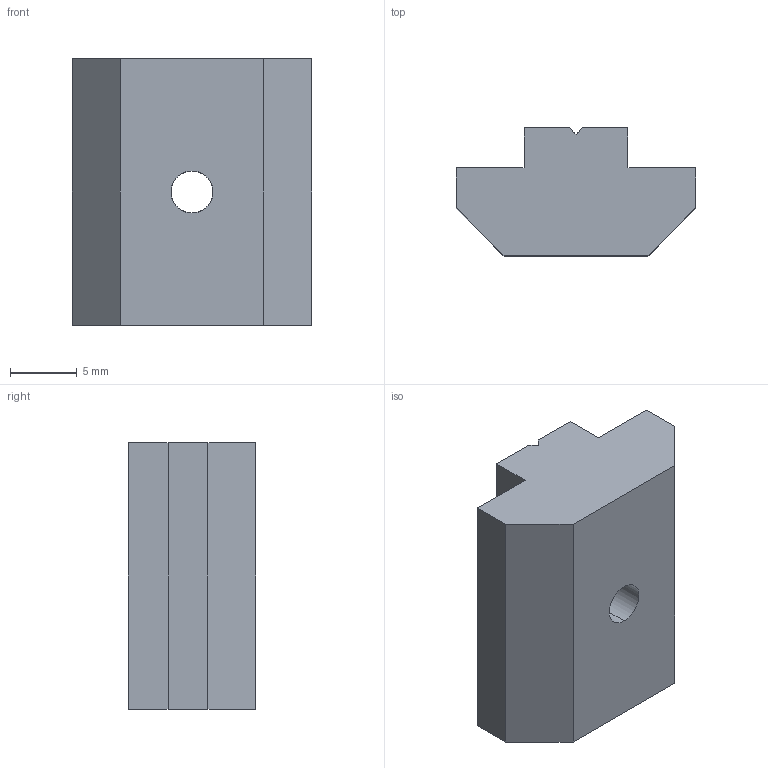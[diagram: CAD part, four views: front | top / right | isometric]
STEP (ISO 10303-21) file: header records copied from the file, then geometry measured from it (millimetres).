
FILE_DESCRIPTION (( 'STEP AP214' ), '1' );
FILE_NAME ('12002AL.STEP', '2017-08-01T09:24:55', ( '' ), ( '' ), 'SwSTEP 2.0', 'SolidWorks 2014', '' );
FILE_SCHEMA (( 'AUTOMOTIVE_DESIGN' ));
Length unit declared in the file: millimetre
Products named in the file (2): 12002AL
Bounding box: 18 x 9.6 x 20 mm (x, y, z)
Volume: 2505.8 mm3; surface area: 1363.5 mm2
Topology: 1 solids, 1 shells, 19 faces, 52 edges, 34 vertices
Faces by surface type: plane 17, cylinder 2
Entity records: 647 total; most frequent: CARTESIAN_POINT 119, ORIENTED_EDGE 104, DIRECTION 94, EDGE_CURVE 52, VECTOR 44, LINE 44, VERTEX_POINT 34, AXIS2_PLACEMENT_3D 25
